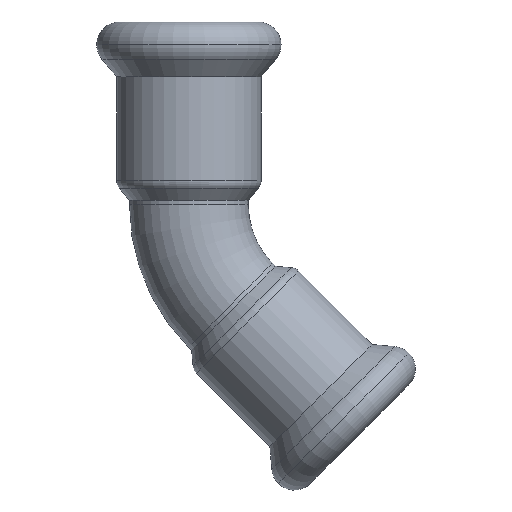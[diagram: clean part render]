
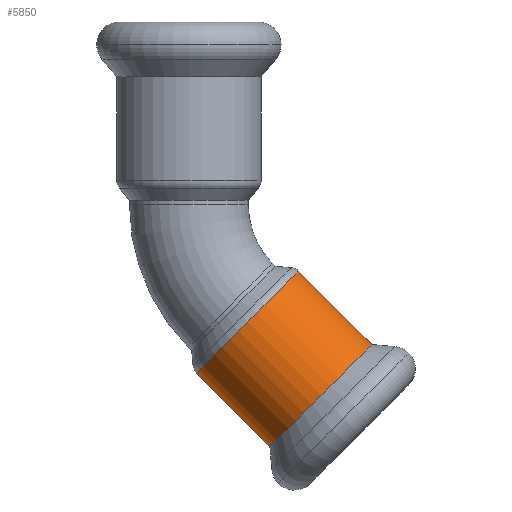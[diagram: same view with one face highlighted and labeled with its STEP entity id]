
A CAD part, top view. The second image highlights one B-rep face of the part: STEP entity #5850.
In plain terms, the highlighted cylindrical face has radius 9.125 mm (diameter 18.25 mm), a partial arc.
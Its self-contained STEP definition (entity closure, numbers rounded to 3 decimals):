
#4660=CARTESIAN_POINT('',(-73.05,20.671,0.));
#4670=VERTEX_POINT('',#4660);
#4850=CARTESIAN_POINT('',(-85.955,7.766,
0.));
#4860=VERTEX_POINT('',#4850);
#4890=CARTESIAN_POINT('',(-79.503,14.219,0.));
#4900=DIRECTION('',(0.707,-0.707,0.));
#4910=DIRECTION('',(-0.707,-0.707,0.));
#4920=AXIS2_PLACEMENT_3D('',#4890,#4900,#4910);
#4930=CIRCLE('',#4920,9.125);
#4940=EDGE_CURVE('',#4670,#4860,#4930,.T.);
#5540=CARTESIAN_POINT('',(-84.328,19.044,0.));
#5550=DIRECTION('',(-0.707,0.707,0.));
#5560=DIRECTION('',(-0.707,-0.707,0.));
#5570=AXIS2_PLACEMENT_3D('',#5540,#5550,#5560);
#5580=CYLINDRICAL_SURFACE('',#5570,9.125);
#5590=CARTESIAN_POINT('',(-77.876,25.497,
0.));
#5600=DIRECTION('',(-0.707,0.707,0.));
#5610=VECTOR('',#5600,1.);
#5620=LINE('',#5590,#5610);
#5630=CARTESIAN_POINT('',(-82.328,29.949,0.));
#5640=VERTEX_POINT('',#5630);
#5650=EDGE_CURVE('',#4670,#5640,#5620,.T.);
#5660=ORIENTED_EDGE('',*,*,#5650,.T.);
#5670=ORIENTED_EDGE('',*,*,#4940,.F.);
#5680=CARTESIAN_POINT('',(-90.781,12.592,0.));
#5690=DIRECTION('',(-0.707,0.707,0.));
#5700=VECTOR('',#5690,1.);
#5710=LINE('',#5680,#5700);
#5720=CARTESIAN_POINT('',(-95.233,17.044,0.));
#5730=VERTEX_POINT('',#5720);
#5740=EDGE_CURVE('',#4860,#5730,#5710,.T.);
#5750=ORIENTED_EDGE('',*,*,#5740,.F.);
#5760=CARTESIAN_POINT('',(-88.78,23.496,0.));
#5770=DIRECTION('',(-0.707,0.707,0.));
#5780=DIRECTION('',(-0.707,-0.707,0.));
#5790=AXIS2_PLACEMENT_3D('',#5760,#5770,#5780);
#5800=CIRCLE('',#5790,9.125);
#5810=EDGE_CURVE('',#5730,#5640,#5800,.T.);
#5820=ORIENTED_EDGE('',*,*,#5810,.F.);
#5830=EDGE_LOOP('',(#5820,#5750,#5670,#5660));
#5840=FACE_OUTER_BOUND('',#5830,.T.);
#5850=ADVANCED_FACE('',(#5840),#5580,.T.);
